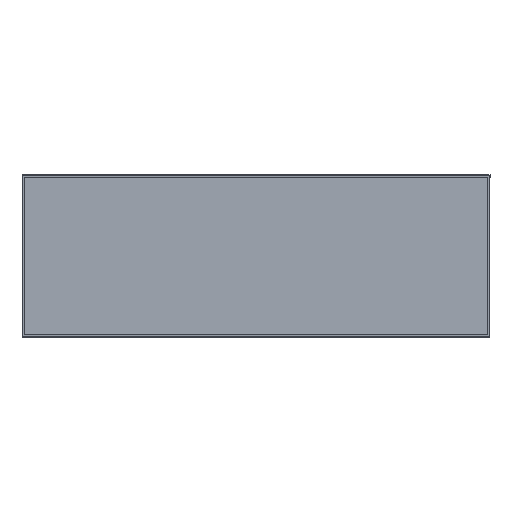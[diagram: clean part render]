
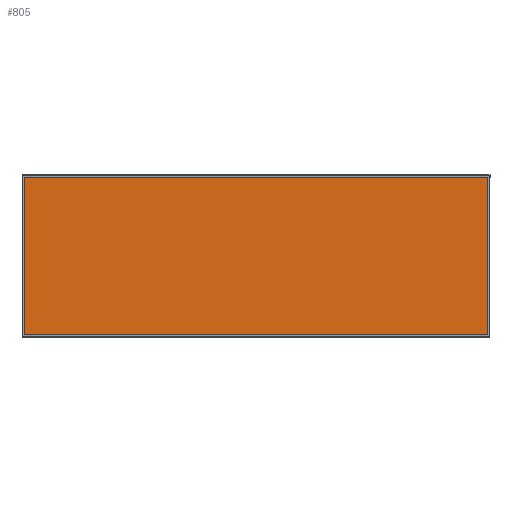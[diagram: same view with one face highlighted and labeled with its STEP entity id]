
A CAD part, top view. The second image highlights one B-rep face of the part: STEP entity #805.
In plain terms, the highlighted planar face has unit normal (0, 0, 1).
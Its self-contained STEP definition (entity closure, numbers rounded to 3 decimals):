
#11 = LINE ( 'NONE', #1948, #2345 ) ;
#112 = DIRECTION ( 'NONE',  ( 1., 0., 0. ) ) ;
#207 = EDGE_LOOP ( 'NONE', ( #1800, #292, #2208, #754 ) ) ;
#292 = ORIENTED_EDGE ( 'NONE', *, *, #2632, .T. ) ;
#306 = DIRECTION ( 'NONE',  ( 1., 0., 0. ) ) ;
#340 = CARTESIAN_POINT ( 'NONE',  ( -648., -223., 4. ) ) ;
#357 = DIRECTION ( 'NONE',  ( 0., -1., 0. ) ) ;
#422 = VERTEX_POINT ( 'NONE', #1269 ) ;
#567 = FACE_OUTER_BOUND ( 'NONE', #207, .T. ) ;
#717 = EDGE_CURVE ( 'NONE', #1192, #1919, #11, .T. ) ;
#737 = DIRECTION ( 'NONE',  ( 0., 1., 0. ) ) ;
#754 = ORIENTED_EDGE ( 'NONE', *, *, #1616, .T. ) ;
#778 = VECTOR ( 'NONE', #2292, 1000. ) ;
#805 = ADVANCED_FACE ( 'NONE', ( #567 ), #2696, .T. ) ;
#985 = LINE ( 'NONE', #340, #2855 ) ;
#1176 = LINE ( 'NONE', #1541, #1908 ) ;
#1192 = VERTEX_POINT ( 'NONE', #1550 ) ;
#1269 = CARTESIAN_POINT ( 'NONE',  ( -648., 223., 4. ) ) ;
#1297 = LINE ( 'NONE', #2770, #778 ) ;
#1390 = CARTESIAN_POINT ( 'NONE',  ( 648., 223., 4. ) ) ;
#1541 = CARTESIAN_POINT ( 'NONE',  ( -648., 223., 4. ) ) ;
#1550 = CARTESIAN_POINT ( 'NONE',  ( 648., -223., 4. ) ) ;
#1616 = EDGE_CURVE ( 'NONE', #2159, #1192, #985, .T. ) ;
#1800 = ORIENTED_EDGE ( 'NONE', *, *, #717, .T. ) ;
#1908 = VECTOR ( 'NONE', #357, 1000. ) ;
#1919 = VERTEX_POINT ( 'NONE', #1390 ) ;
#1948 = CARTESIAN_POINT ( 'NONE',  ( 648., 223., 4. ) ) ;
#2159 = VERTEX_POINT ( 'NONE', #2771 ) ;
#2208 = ORIENTED_EDGE ( 'NONE', *, *, #2295, .T. ) ;
#2247 = AXIS2_PLACEMENT_3D ( 'NONE', #2728, #2253, #112 ) ;
#2253 = DIRECTION ( 'NONE',  ( 0., 0., 1. ) ) ;
#2292 = DIRECTION ( 'NONE',  ( -1., 0., 0. ) ) ;
#2295 = EDGE_CURVE ( 'NONE', #422, #2159, #1176, .T. ) ;
#2345 = VECTOR ( 'NONE', #737, 1000. ) ;
#2632 = EDGE_CURVE ( 'NONE', #1919, #422, #1297, .T. ) ;
#2696 = PLANE ( 'NONE',  #2247 ) ;
#2728 = CARTESIAN_POINT ( 'NONE',  ( 0., 0., 4. ) ) ;
#2770 = CARTESIAN_POINT ( 'NONE',  ( -648., 223., 4. ) ) ;
#2771 = CARTESIAN_POINT ( 'NONE',  ( -648., -223., 4. ) ) ;
#2855 = VECTOR ( 'NONE', #306, 1000. ) ;
